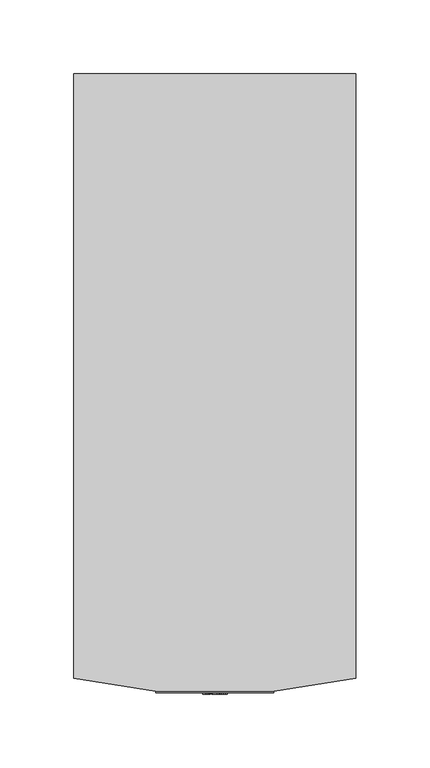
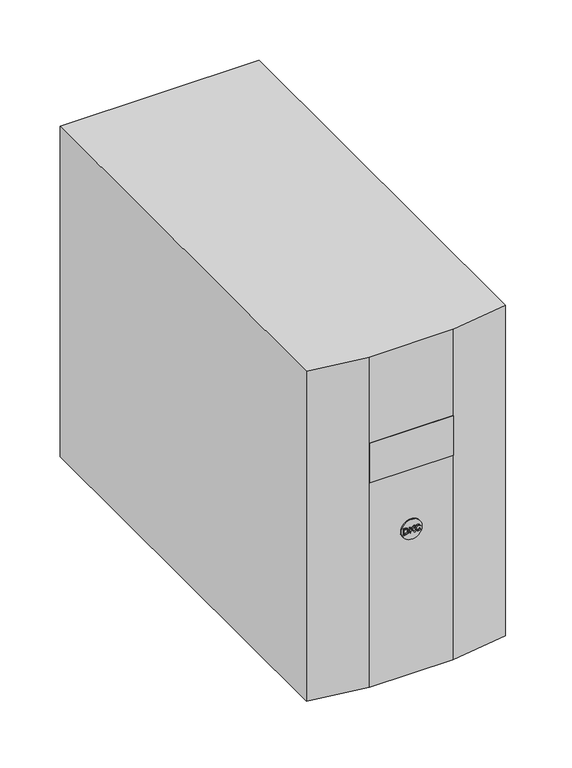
"""IFC4 building model written with IfcOpenShell, lengths in millimetres: proxy geometry, НВО_КНС_БатарейныйБлокBPSMLT_DKC : BPSMLT2-72V."""

from ifc_helpers import new_model, si_unit, point, frame, frame_2d, origin, origin_with_axes, place, context, project, spatial, polyline, circle_curve, trimmed, segment, composite_curve, outline, extrude, source, transform, mapped, element, save


def electrical_equipment_228549ca(model_context):
    return source(origin(), model_context, "Body", "SweptSolid", [
        extrude(outline(polyline([(144.0, -8.1463789), (144.0, -5.967046), (144.103007, -4.9980448), (144.9520786, -3.7273804), (145.829845, -3.3153525), (147.0460629, -3.154956), (148.4793312, -3.391872), (149.5094008, -4.1055631), (149.9405585, -4.9914229), (150.0273786, -6.0671099), (150.0273786, -8.1463789), (144.0, -8.1463789)]), holes=[polyline([(144.7534223, -7.3929566), (149.2739563, -7.3929566), (149.2739563, -6.0803536), (149.153291, -5.0120243), (148.4852173, -4.2299072), (147.0578351, -3.9083783), (145.9181367, -4.0724537), (144.8623154, -5.0900153), (144.7534223, -6.0597522), (144.7534223, -7.3929566)])]), frame((0.0, -2.0, 0.0), z_axis=(0.0, 1.0, 0.0), x_axis=(0.0, 0.0, 1.0)), (0.0, 0.0, 1.0), 6.0),
        extrude(outline(polyline([(144.0, -1.7422891), (146.0719114, -1.365578), (147.0401768, -0.3502237), (144.0, 1.9512461), (144.0, 2.8724226), (147.5493255, 0.183941), (150.0273786, 2.7782448), (150.0273786, 1.7246308), (147.076965, -1.365578), (150.0273786, -2.1190003), (144.0, -1.7422891)])), frame((0.0, -2.0, 0.0), z_axis=(0.0, 1.0, 0.0), x_axis=(0.0, 0.0, 1.0)), (0.0, 0.0, 1.0), 6.0),
        extrude(outline(polyline([(146.1425447, 7.6754899), (145.0330126, 7.036111), (144.6592445, 5.8831689), (144.9336845, 4.8435343), (145.7628905, 4.1357294), (147.0607782, 3.9083783), (148.180611, 4.1004127), (149.0458694, 4.7662791), (149.3681341, 5.944973), (149.0775073, 6.9632704), (148.3307068, 8.3347345), (149.652139, 7.4834555), (150.1215564, 5.9744036), (149.7588248, 4.5264201), (148.6971173, 3.5118015), (147.0593067, 3.154956), (145.4479835, 3.4705987), (144.3016632, 4.3903037), (143.9058222, 5.9582168), (144.4289504, 7.5356948), (146.1425447, 7.6754899)])), frame((0.0, -2.0, 0.0), z_axis=(0.0, 1.0, 0.0), x_axis=(0.0, 0.0, 1.0)), (0.0, 0.0, 1.0), 6.0),
        extrude(outline(composite_curve([segment(trimmed(circle_curve(frame_2d((147.0, 0.0)), 10.0), [point((147.0, -10.0))], [point((147.0, 10.0))], False, "CARTESIAN"), True, "CONTINUOUS"), segment(trimmed(circle_curve(frame_2d((147.0, 0.0)), 10.0), [point((147.0, 10.0))], [point((147.0, -10.0))], False, "CARTESIAN"), True, "CONTINUOUS")], self_intersect=False)), frame((0.0, -1.0, 0.0), z_axis=(0.0, 1.0, 0.0), x_axis=(0.0, 0.0, 1.0)), (0.0, 0.0, 1.0), 10.0),
        extrude(outline(polyline([(-95.5, 418.0), (95.5, 418.0), (95.5, 8.5743742), (40.0, 0.0), (-40.0, 0.0), (-95.5, 8.5743742), (-95.5, 418.0)])), origin_with_axes(), (0.0, 0.0, 1.0), 335.0),
        extrude(outline(polyline([(40.0, -1.0), (-40.0, -1.0), (-40.0, 0.0), (40.0, 0.0), (40.0, -1.0)])), frame((0.0, 0.0, 208.0), z_axis=(0.0, 0.0, 1.0), x_axis=(1.0, 0.0, 0.0)), (0.0, 0.0, 1.0), 40.0),
    ])


if __name__ == "__main__":
    model = new_model("IFC4")
    model_context = context("Model", 3, world=origin())
    ifc_project = project(units=[si_unit("LENGTHUNIT", "METRE", prefix="MILLI")], contexts=[model_context])
    site = spatial("IfcSite", under=ifc_project)
    building = spatial("IfcBuilding", under=site)
    placement = place(None, origin())
    electrical_equipment_shape = electrical_equipment_228549ca(model_context)
    element("IfcBuildingElementProxy", 1, Name="НВО_КНС_БатарейныйБлокBPSMLT_DKC : BPSMLT2-72V", ObjectType="НВО_КНС_БатарейныйБлокBPSMLT_DKC : BPSMLT2-72V", at=placement, inside=building, context=model_context, shape_type="MappedRepresentation", body=[
        mapped(electrical_equipment_shape, transform((0.0, 0.0, 0.0), x_axis=(1.0, 0.0, 0.0), y_axis=(0.0, 1.0, 0.0), z_axis=(0.0, 0.0, 1.0))),
    ])
    save(model, "model.ifc")
